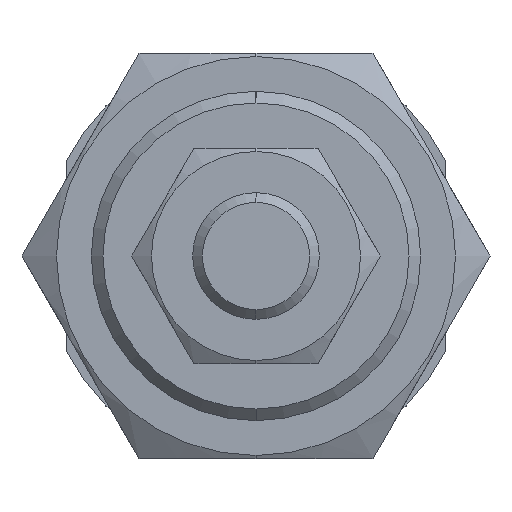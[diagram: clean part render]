
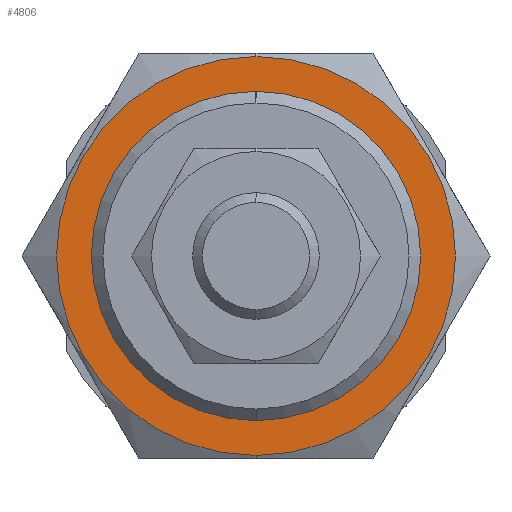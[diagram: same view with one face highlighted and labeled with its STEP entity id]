
A CAD part, left-side view. The second image highlights one B-rep face of the part: STEP entity #4806.
In plain terms, the highlighted planar face has unit normal (-1, 0, 0).
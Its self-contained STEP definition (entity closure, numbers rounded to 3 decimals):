
#154 = ORIENTED_EDGE ( 'NONE', *, *, #1741, .F. ) ;
#207 = DIRECTION ( 'NONE',  ( 0., 0., -1. ) ) ;
#342 = FACE_BOUND ( 'NONE', #2350, .T. ) ;
#371 = PLANE ( 'NONE',  #4999 ) ;
#398 = DIRECTION ( 'NONE',  ( 0., 1., 0. ) ) ;
#1212 = FACE_OUTER_BOUND ( 'NONE', #2753, .T. ) ;
#1310 = DIRECTION ( 'NONE',  ( 0., 0., -1. ) ) ;
#1416 = DIRECTION ( 'NONE',  ( 1., 0., 0. ) ) ;
#1426 = AXIS2_PLACEMENT_3D ( 'NONE', #4703, #1416, #1310 ) ;
#1484 = EDGE_CURVE ( 'NONE', #4543, #2007, #1597, .T. ) ;
#1567 = DIRECTION ( 'NONE',  ( 1., 0., 0. ) ) ;
#1597 = CIRCLE ( 'NONE', #1426, 13. ) ;
#1741 = EDGE_CURVE ( 'NONE', #2368, #2788, #2567, .T. ) ;
#1794 = CARTESIAN_POINT ( 'NONE',  ( -11., 0., -15.75 ) ) ;
#2007 = VERTEX_POINT ( 'NONE', #2855 ) ;
#2258 = CIRCLE ( 'NONE', #3194, 13. ) ;
#2299 = DIRECTION ( 'NONE',  ( 1., 0., 0. ) ) ;
#2348 = DIRECTION ( 'NONE',  ( 0., 0., -1. ) ) ;
#2350 = EDGE_LOOP ( 'NONE', ( #3271, #4917 ) ) ;
#2368 = VERTEX_POINT ( 'NONE', #1794 ) ;
#2567 = CIRCLE ( 'NONE', #3170, 15.75 ) ;
#2627 = CARTESIAN_POINT ( 'NONE',  ( -11., 0., 13. ) ) ;
#2753 = EDGE_LOOP ( 'NONE', ( #154, #4058 ) ) ;
#2788 = VERTEX_POINT ( 'NONE', #3472 ) ;
#2855 = CARTESIAN_POINT ( 'NONE',  ( -11., 0., -13. ) ) ;
#2915 = DIRECTION ( 'NONE',  ( 1., 0., 0. ) ) ;
#3170 = AXIS2_PLACEMENT_3D ( 'NONE', #4048, #1567, #4875 ) ;
#3194 = AXIS2_PLACEMENT_3D ( 'NONE', #5205, #4049, #207 ) ;
#3271 = ORIENTED_EDGE ( 'NONE', *, *, #1484, .T. ) ;
#3472 = CARTESIAN_POINT ( 'NONE',  ( -11., 0., 15.75 ) ) ;
#3555 = CARTESIAN_POINT ( 'NONE',  ( -11., 0., 0. ) ) ;
#3794 = AXIS2_PLACEMENT_3D ( 'NONE', #3555, #2299, #2348 ) ;
#3966 = CIRCLE ( 'NONE', #3794, 15.75 ) ;
#4048 = CARTESIAN_POINT ( 'NONE',  ( -11., 0., 0. ) ) ;
#4049 = DIRECTION ( 'NONE',  ( 1., 0., 0. ) ) ;
#4058 = ORIENTED_EDGE ( 'NONE', *, *, #4709, .F. ) ;
#4129 = CARTESIAN_POINT ( 'NONE',  ( -11., 0., 0. ) ) ;
#4543 = VERTEX_POINT ( 'NONE', #2627 ) ;
#4703 = CARTESIAN_POINT ( 'NONE',  ( -11., 0., 0. ) ) ;
#4709 = EDGE_CURVE ( 'NONE', #2788, #2368, #3966, .T. ) ;
#4785 = EDGE_CURVE ( 'NONE', #2007, #4543, #2258, .T. ) ;
#4806 = ADVANCED_FACE ( 'NONE', ( #1212, #342 ), #371, .F. ) ;
#4875 = DIRECTION ( 'NONE',  ( 0., 0., -1. ) ) ;
#4917 = ORIENTED_EDGE ( 'NONE', *, *, #4785, .T. ) ;
#4999 = AXIS2_PLACEMENT_3D ( 'NONE', #4129, #2915, #398 ) ;
#5205 = CARTESIAN_POINT ( 'NONE',  ( -11., 0., 0. ) ) ;
